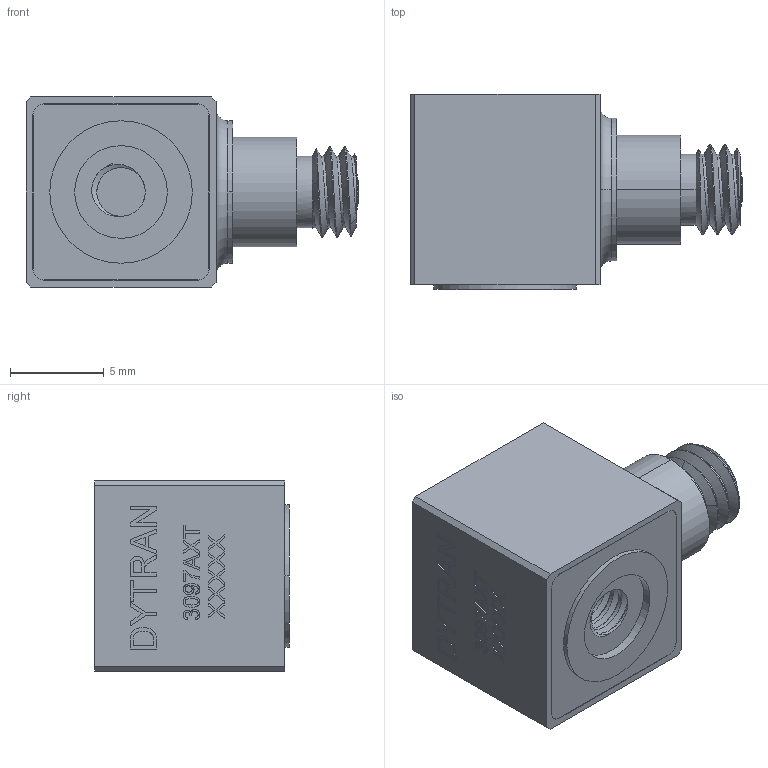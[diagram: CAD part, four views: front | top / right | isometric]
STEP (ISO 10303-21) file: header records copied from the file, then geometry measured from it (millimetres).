
FILE_DESCRIPTION (( 'STEP AP214' ), '1' );
FILE_NAME ('3097AXT.STEP', '2018-02-02T16:34:18', ( 'Dytran' ), ( '' ), 'SwSTEP 2.0', 'SolidWorks 2016', '' );
FILE_SCHEMA (( 'AUTOMOTIVE_DESIGN' ));
Length unit declared in the file: inch
Products named in the file (1): 3097AXT
Bounding box: 17.75 x 10.41 x 10.16 mm (x, y, z)
Volume: 1201.2 mm3; surface area: 1036.3 mm2
Topology: 3 solids, 3 shells, 427 faces, 1116 edges, 734 vertices
Faces by surface type: plane 245, bspline 92, cylinder 62, cone 26, torus 2
Entity records: 23432 total; most frequent: CARTESIAN_POINT 7978, ORIENTED_EDGE 2232, DIRECTION 1688, EDGE_CURVE 1116, VERTEX_POINT 734, VECTOR 712, LINE 712, AXIS2_PLACEMENT_3D 488
